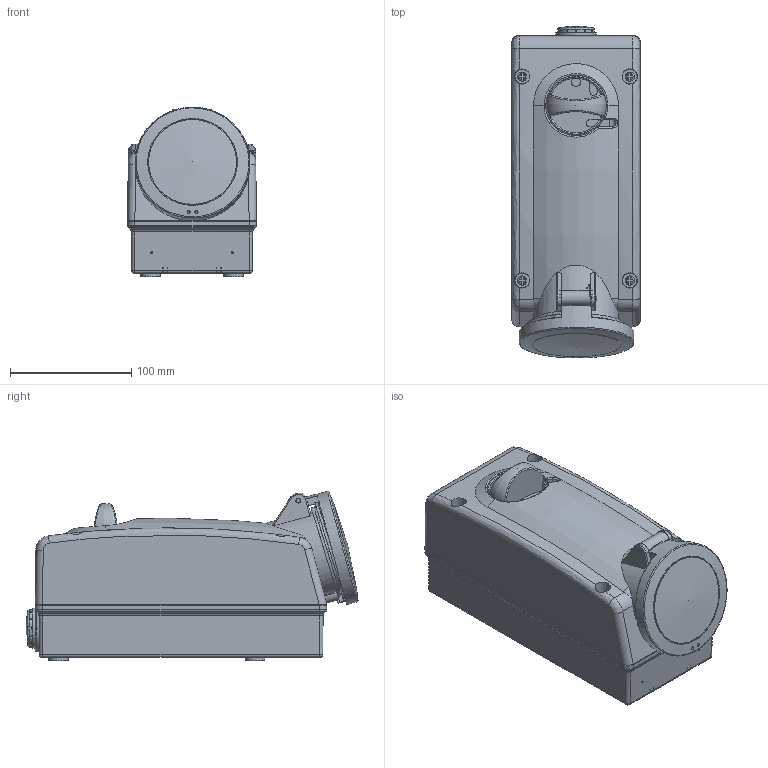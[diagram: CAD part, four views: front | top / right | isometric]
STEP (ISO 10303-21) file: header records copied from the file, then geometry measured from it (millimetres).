
FILE_DESCRIPTION(/* description */ (''),/* implementation_level */ '2;1');
FILE_NAME(/* name */ '4003566.stp',/* time_stamp */ '2019-11-04T08:12:42+01:00',/* author */ (''),/* organization */ (''),/* preprocessor_version */ 'ST-DEVELOPER v16.7',/* originating_system */ 'SIEMENS PLM Software NX 1888',/* authorisation */ '');
FILE_SCHEMA (('AUTOMOTIVE_DESIGN { 1 0 10303 214 3 1 1 1 }'));
Length unit declared in the file: millimetre
Products named in the file (1): BSOMB26489C0fos7
Bounding box: 106 x 273.47 x 139.75 mm (x, y, z)
Volume: 265554.9 mm3; surface area: 349683.1 mm2
Topology: 10 solids, 12 shells, 1483 faces, 3905 edges, 2512 vertices
Faces by surface type: plane 754, cylinder 359, bspline 160, cone 117, torus 46, sphere 22, extrusion 20, revolution 5
Full cylindrical faces by diameter (mm): 0.998 x4, 1.5 x1, 2.5 x4, 2.7 x1, 2.8 x4, 2.9 x8, 3.2 x4, 4 x12, 4.4 x4, 4.5 x1, 5 x1, 7.5 x4, 10.3 x1, 11.4 x4, 13.2 x1, 14.2 x4, 16 x4, 19.8 x1, 21.3 x1, 23.16 x2, 23.5 x1, 23.8 x1, 25.2 x1, 25.4 x1, 25.6 x1, 30.1 x1, 30.6 x1, 33.2 x1, 35.1 x1, 49.7 x1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
Entity records: 83416 total; most frequent: CARTESIAN_POINT 49523, ORIENTED_EDGE 7322, DIRECTION 6284, EDGE_CURVE 3661, VERTEX_POINT 2444, AXIS2_PLACEMENT_3D 2366, EDGE_LOOP 1766, VECTOR 1547
